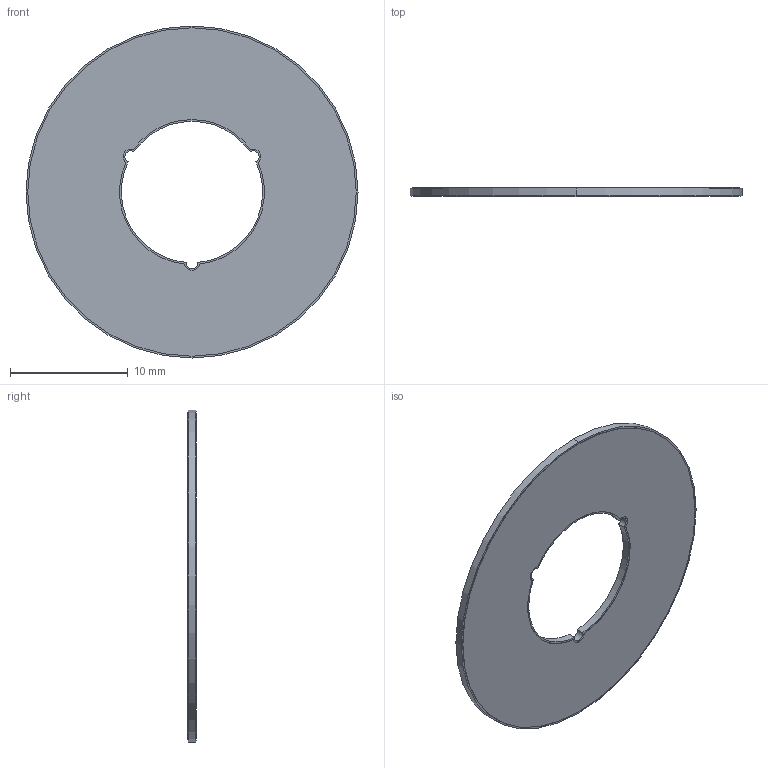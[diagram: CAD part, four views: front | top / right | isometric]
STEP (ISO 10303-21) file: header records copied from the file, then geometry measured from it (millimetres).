
FILE_DESCRIPTION (( 'STEP AP214' ), '1' );
FILE_NAME ('Posic_TPCD05-064.STEP', '2018-07-20T09:32:56', ( '' ), ( '' ), 'SwSTEP 2.0', 'SolidWorks 2018', '' );
FILE_SCHEMA (( 'AUTOMOTIVE_DESIGN' ));
Length unit declared in the file: millimetre
Products named in the file (1): Posic_TPCD05-064
Bounding box: 28.2 x 0.72 x 28.2 mm (x, y, z)
Volume: 358 mm3; surface area: 1143 mm2
Topology: 1 solids, 1 shells, 660 faces, 1590 edges, 1060 vertices
Faces by surface type: plane 382, cylinder 278
Entity records: 26494 total; most frequent: DIRECTION 3468, CARTESIAN_POINT 3311, ORIENTED_EDGE 3180, EDGE_CURVE 1590, AXIS2_PLACEMENT_3D 1217, VERTEX_POINT 1060, LINE 1034, VECTOR 1034
